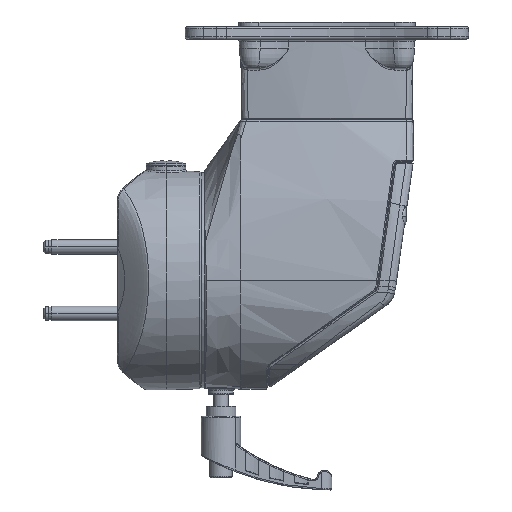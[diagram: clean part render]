
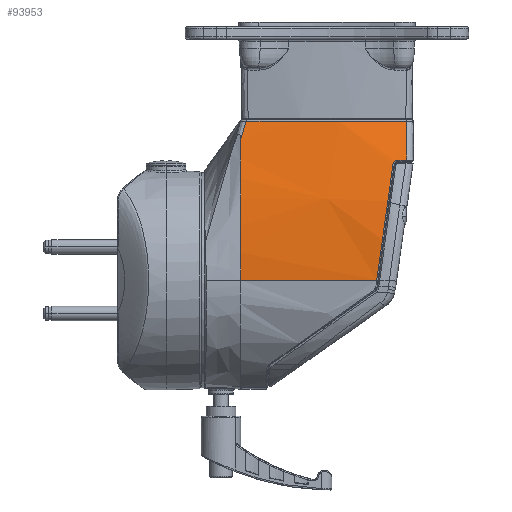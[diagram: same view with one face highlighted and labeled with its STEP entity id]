
A CAD part, left-side view. The second image highlights one B-rep face of the part: STEP entity #93953.
In plain terms, the highlighted free-form (B-spline) face has degree [3, 3] with [5, 5] control points.
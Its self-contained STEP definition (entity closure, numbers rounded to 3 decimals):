
#60191=DIRECTION('',(0.,1.,0.));
#60192=VECTOR('',#60191,55.175);
#60193=CARTESIAN_POINT('',(44.,15.,0.));
#60194=LINE('',#60193,#60192);
#60212=CARTESIAN_POINT('',(29.618,17.142,64.427));
#60213=CARTESIAN_POINT('',(29.942,16.914,63.661));
#60214=CARTESIAN_POINT('',(30.599,16.45,62.085));
#60215=CARTESIAN_POINT('',(31.612,15.732,59.574));
#60216=CARTESIAN_POINT('',(32.294,15.244,57.817));
#60217=CARTESIAN_POINT('',(32.637,14.998,56.916));
#60222=CARTESIAN_POINT('',(29.684,82.445,64.425));
#60223=CARTESIAN_POINT('',(29.917,80.971,64.419));
#60224=CARTESIAN_POINT('',(30.35,78.022,64.409));
#60225=CARTESIAN_POINT('',(30.886,73.768,64.395));
#60226=CARTESIAN_POINT('',(31.368,69.176,64.383));
#60227=CARTESIAN_POINT('',(31.763,64.35,64.372));
#60228=CARTESIAN_POINT('',(32.058,59.248,64.364));
#60229=CARTESIAN_POINT('',(32.228,53.968,64.36));
#60230=CARTESIAN_POINT('',(32.262,48.659,64.359));
#60231=CARTESIAN_POINT('',(32.16,43.417,64.362));
#60232=CARTESIAN_POINT('',(31.928,38.22,64.368));
#60233=CARTESIAN_POINT('',(31.577,33.185,64.377));
#60234=CARTESIAN_POINT('',(31.114,28.244,64.389));
#60235=CARTESIAN_POINT('',(30.503,23.055,64.405));
#60236=CARTESIAN_POINT('',(29.943,19.17,64.419));
#60237=CARTESIAN_POINT('',(29.618,17.142,64.427));
#60242=CARTESIAN_POINT('',(29.684,82.445,64.425));
#60243=CARTESIAN_POINT('',(30.161,82.432,63.41));
#60244=CARTESIAN_POINT('',(31.092,82.405,61.367));
#60245=CARTESIAN_POINT('',(32.424,82.366,58.263));
#60246=CARTESIAN_POINT('',(33.687,82.33,55.124));
#60247=CARTESIAN_POINT('',(34.882,82.295,51.951));
#60248=CARTESIAN_POINT('',(35.631,82.273,49.816));
#60249=CARTESIAN_POINT('',(35.994,82.262,48.743));
#60254=CARTESIAN_POINT('',(36.295,78.734,48.676));
#60255=CARTESIAN_POINT('',(36.263,79.126,48.684));
#60256=CARTESIAN_POINT('',(36.199,79.909,48.699));
#60257=CARTESIAN_POINT('',(36.099,81.085,48.721));
#60258=CARTESIAN_POINT('',(36.029,81.87,48.736));
#60259=CARTESIAN_POINT('',(35.994,82.262,48.743));
#60264=CARTESIAN_POINT('',(36.975,76.784,46.947));
#60265=CARTESIAN_POINT('',(36.914,76.811,47.139));
#60266=CARTESIAN_POINT('',(36.79,76.922,47.519));
#60267=CARTESIAN_POINT('',(36.616,77.241,48.008));
#60268=CARTESIAN_POINT('',(36.467,77.674,48.381));
#60269=CARTESIAN_POINT('',(36.354,78.191,48.617));
#60270=CARTESIAN_POINT('',(36.309,78.551,48.673));
#60271=CARTESIAN_POINT('',(36.295,78.734,48.676));
#60276=CARTESIAN_POINT('',(44.,70.175,0.));
#60277=CARTESIAN_POINT('',(44.,70.748,4.089));
#60278=CARTESIAN_POINT('',(43.697,71.904,12.328));
#60279=CARTESIAN_POINT('',(42.356,73.583,24.273));
#60280=CARTESIAN_POINT('',(40.141,75.222,35.904));
#60281=CARTESIAN_POINT('',(38.132,76.264,43.276));
#60282=CARTESIAN_POINT('',(36.975,76.784,46.947));
#60781=CARTESIAN_POINT('',(32.637,14.998,56.916));
#60819=CARTESIAN_POINT('',(-104.245,15.,0.));
#60820=DIRECTION('',(0.,-1.,0.));
#60821=DIRECTION('',(0.974,0.,0.225));
#60822=AXIS2_PLACEMENT_3D('',#60819,#60820,#60821);
#60827=CARTESIAN_POINT('',(-104.245,15.,0.));
#60828=DIRECTION('',(0.,-1.,0.));
#60829=DIRECTION('',(1.,0.,0.));
#60830=AXIS2_PLACEMENT_3D('',#60827,#60828,#60829);
#71122=CARTESIAN_POINT('',(44.,15.,0.));
#71123=CARTESIAN_POINT('',(40.209,15.,33.31));
#71124=VERTEX_POINT('',#71122);
#71125=VERTEX_POINT('',#71123);
#71146=VERTEX_POINT('',#60781);
#71162=VERTEX_POINT('',#60276);
#71163=VERTEX_POINT('',#60282);
#71342=VERTEX_POINT('',#60212);
#71785=VERTEX_POINT('',#60242);
#71786=VERTEX_POINT('',#60249);
#72212=VERTEX_POINT('',#60254);
#93909=CARTESIAN_POINT('',(28.86,14.329,65.027));
#93910=CARTESIAN_POINT('',(30.946,26.219,65.028));
#93911=CARTESIAN_POINT('',(32.957,49.147,65.029));
#93912=CARTESIAN_POINT('',(31.09,72.076,65.028));
#93913=CARTESIAN_POINT('',(29.293,83.113,65.028));
#93914=CARTESIAN_POINT('',(33.822,14.329,54.947));
#93915=CARTESIAN_POINT('',(35.218,26.219,54.833));
#93916=CARTESIAN_POINT('',(36.63,49.147,54.522));
#93917=CARTESIAN_POINT('',(35.319,72.076,54.811));
#93918=CARTESIAN_POINT('',(34.112,83.113,54.922));
#93919=CARTESIAN_POINT('',(41.505,14.329,33.435));
#93920=CARTESIAN_POINT('',(41.858,26.219,33.179));
#93921=CARTESIAN_POINT('',(42.166,49.147,32.982));
#93922=CARTESIAN_POINT('',(41.88,72.076,33.165));
#93923=CARTESIAN_POINT('',(41.578,83.113,33.382));
#93924=CARTESIAN_POINT('',(44.05,14.329,10.753));
#93925=CARTESIAN_POINT('',(44.045,26.219,10.672));
#93926=CARTESIAN_POINT('',(44.036,49.147,10.699));
#93927=CARTESIAN_POINT('',(44.044,72.076,10.674));
#93928=CARTESIAN_POINT('',(44.049,83.113,10.737));
#93929=CARTESIAN_POINT('',(43.999,14.329,
-0.663));
#93930=CARTESIAN_POINT('',(43.999,26.219,
-0.658));
#93931=CARTESIAN_POINT('',(43.999,49.147,
-0.659));
#93932=CARTESIAN_POINT('',(43.999,72.076,
-0.658));
#93933=CARTESIAN_POINT('',(43.999,83.113,
-0.662));
#93934=B_SPLINE_SURFACE_WITH_KNOTS('',3,3,((#93909,#93910,#93911,#93912,#93913),
(#93914,#93915,#93916,#93917,#93918),(#93919,#93920,#93921,#93922,#93923),(
#93924,#93925,#93926,#93927,#93928),(#93929,#93930,#93931,#93932,#93933)),
.UNSPECIFIED.,.F.,.F.,.F.,(4,1,4),(4,1,4),(0.,0.5,
1.01),(-0.672,35.043,68.197),
.UNSPECIFIED.);
#93936=ORIENTED_EDGE('',*,*,#93935,.F.);
#93938=ORIENTED_EDGE('',*,*,#93937,.F.);
#93940=ORIENTED_EDGE('',*,*,#93939,.T.);
#93942=ORIENTED_EDGE('',*,*,#93941,.F.);
#93944=ORIENTED_EDGE('',*,*,#93943,.F.);
#93945=ORIENTED_EDGE('',*,*,#93893,.F.);
#93946=ORIENTED_EDGE('',*,*,#93796,.F.);
#93948=ORIENTED_EDGE('',*,*,#93947,.T.);
#93950=ORIENTED_EDGE('',*,*,#93949,.T.);
#93951=EDGE_LOOP('',(#93936,#93938,#93940,#93942,#93944,#93945,#93946,#93948,
#93950));
#93952=FACE_OUTER_BOUND('',#93951,.F.);
#60218=B_SPLINE_CURVE_WITH_KNOTS('',3,(#60212,#60213,#60214,#60215,#60216,
#60217),.UNSPECIFIED.,.F.,.F.,(4,1,1,4),(0.,0.333,
0.667,1.),.UNSPECIFIED.);
#60238=B_SPLINE_CURVE_WITH_KNOTS('',3,(#60222,#60223,#60224,#60225,#60226,
#60227,#60228,#60229,#60230,#60231,#60232,#60233,#60234,#60235,#60236,#60237),
.UNSPECIFIED.,.F.,.F.,(4,1,1,1,1,1,1,1,1,1,1,1,1,4),(0.,0.077,
0.154,0.231,0.308,0.385,
0.462,0.538,0.615,0.692,
0.769,0.846,0.923,1.),.UNSPECIFIED.);
#60250=B_SPLINE_CURVE_WITH_KNOTS('',3,(#60242,#60243,#60244,#60245,#60246,
#60247,#60248,#60249),.UNSPECIFIED.,.F.,.F.,(4,1,1,1,1,4),(0.,0.2,0.4,
0.6,0.8,1.),.UNSPECIFIED.);
#60260=B_SPLINE_CURVE_WITH_KNOTS('',3,(#60254,#60255,#60256,#60257,#60258,
#60259),.UNSPECIFIED.,.F.,.F.,(4,1,1,4),(0.,0.333,
0.667,1.),.UNSPECIFIED.);
#60272=B_SPLINE_CURVE_WITH_KNOTS('',3,(#60264,#60265,#60266,#60267,#60268,
#60269,#60270,#60271),.UNSPECIFIED.,.F.,.F.,(4,1,1,1,1,4),(0.,
0.2,0.4,0.6,0.8,1.),
.UNSPECIFIED.);
#60283=B_SPLINE_CURVE_WITH_KNOTS('',3,(#60276,#60277,#60278,#60279,#60280,
#60281,#60282),.UNSPECIFIED.,.F.,.F.,(4,1,1,1,4),(0.,0.25,0.5,0.75,
1.),.UNSPECIFIED.);
#60823=CIRCLE('',#60822,148.245);
#60831=CIRCLE('',#60830,148.245);
#93796=EDGE_CURVE('',#71124,#71162,#60194,.T.);
#93893=EDGE_CURVE('',#71162,#71163,#60283,.T.);
#93935=EDGE_CURVE('',#71342,#71146,#60218,.T.);
#93937=EDGE_CURVE('',#71785,#71342,#60238,.T.);
#93939=EDGE_CURVE('',#71785,#71786,#60250,.T.);
#93941=EDGE_CURVE('',#72212,#71786,#60260,.T.);
#93943=EDGE_CURVE('',#71163,#72212,#60272,.T.);
#93947=EDGE_CURVE('',#71124,#71125,#60831,.T.);
#93949=EDGE_CURVE('',#71125,#71146,#60823,.T.);
#93953=ADVANCED_FACE('',(#93952),#93934,.T.);
